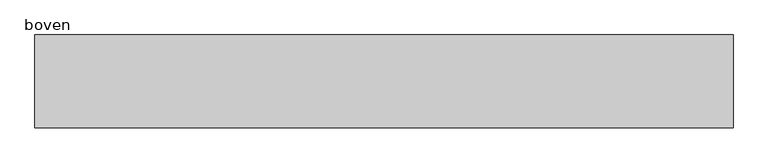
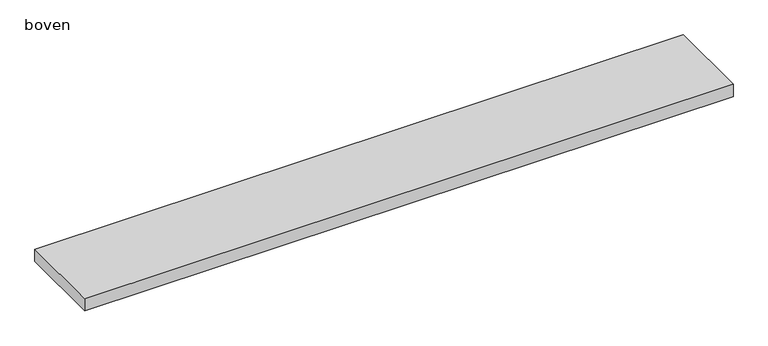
"""IFC4 building model written with IfcOpenShell, lengths in millimetres: proxy geometry, 400_35_NS_betonstrook : boven."""

from ifc_helpers import new_model, si_unit, origin, origin_with_axes, place, context, project, spatial, polyline, outline, extrude, source, transform, mapped, element, save


def boven_94df7e55(model_context):
    return source(origin(), model_context, "Body", "SweptSolid", [
        extrude(outline(polyline([(-750.0, 0.0), (-750.0, 200.0), (750.0, 200.0), (750.0, 0.0), (-750.0, 0.0)])), origin_with_axes(), (0.0, 0.0, 1.0), 30.0),
    ])


if __name__ == "__main__":
    model = new_model("IFC4")
    model_context = context("Model", 3, world=origin())
    ifc_project = project(units=[si_unit("LENGTHUNIT", "METRE", prefix="MILLI")], contexts=[model_context])
    site = spatial("IfcSite", under=ifc_project)
    building = spatial("IfcBuilding", under=site)
    placement = place(None, origin())
    boven_shape = boven_94df7e55(model_context)
    element("IfcBuildingElementProxy", 1, Name="400_35_NS_betonstrook : boven", ObjectType="400_35_NS_betonstrook : boven", at=placement, inside=building, context=model_context, shape_type="MappedRepresentation", body=[
        mapped(boven_shape, transform((0.0, 0.0, 0.0), x_axis=(1.0, 0.0, 0.0), y_axis=(0.0, 1.0, 0.0), z_axis=(0.0, 0.0, 1.0))),
    ])
    save(model, "model.ifc")
